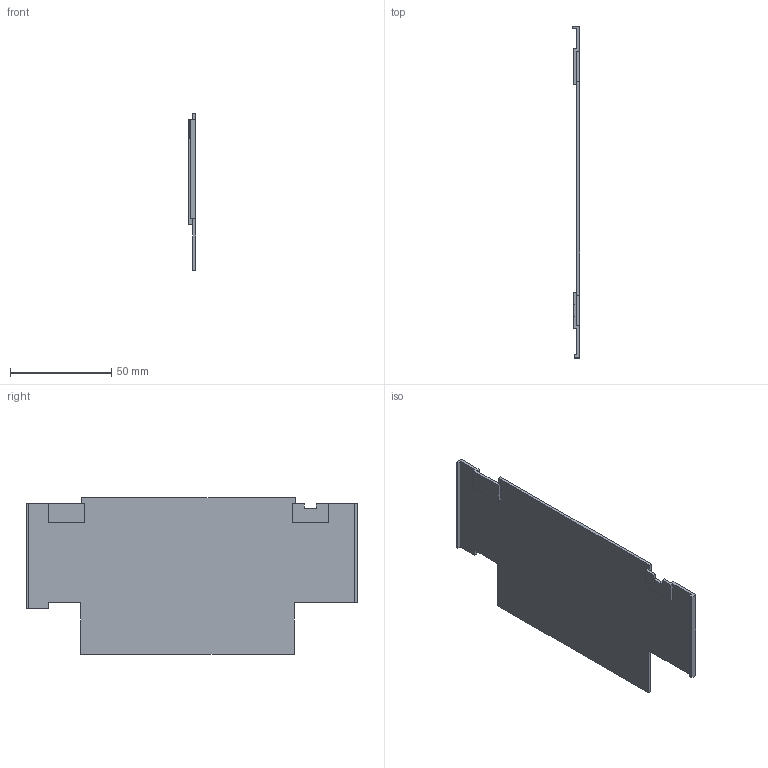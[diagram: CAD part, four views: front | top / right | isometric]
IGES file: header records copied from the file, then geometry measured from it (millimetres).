
Start section:  PTC IGES file: j4-du-700-22k-sidecover1.igs
Global section: file name: j4-du-700-22k-sidecover1.igs; native system: Creo Parametric by Parametric Technology Corporation; preprocessor: 2014310; author: JR20012; organization: Unknown; date: 20160927.133802; units: millimetre
Bounding box: 3.5 x 164 x 77.5 mm (x, y, z)
Volume: 16827.8 mm3; surface area: 23395.3 mm2
Topology: 1 solids, 1 shells, 38 faces, 108 edges, 72 vertices
Faces by surface type: bspline 38
